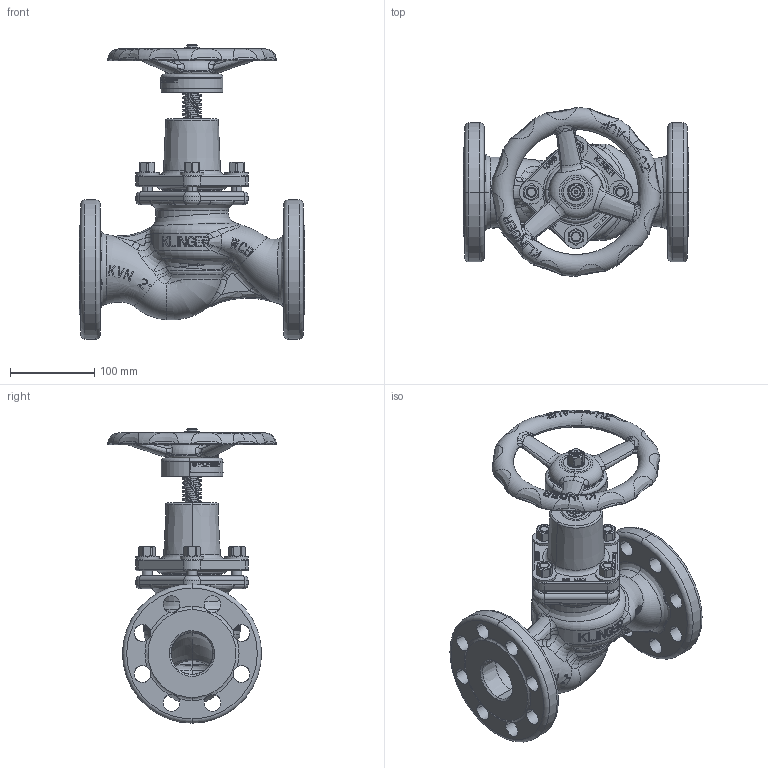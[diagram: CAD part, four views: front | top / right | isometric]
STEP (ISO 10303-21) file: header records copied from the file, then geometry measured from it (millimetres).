
FILE_DESCRIPTION((''),'2;1');
FILE_NAME('KVNFL-2-S-----C300PGG_SW0001','2026-09-28T13:11:05',('jeitlers'),('KLINGER'),'CREO PARAMETRIC BY PTC INC, 2025443','CREO PARAMETRIC BY PTC INC, 2025443','');
FILE_SCHEMA(('CONFIG_CONTROL_DESIGN'));
Length unit declared in the file: millimetre
Products named in the file (1): KVNFL-2-S-----C300PGG_SW0001
Bounding box: 267 x 199.99 x 348.9 mm (x, y, z)
Volume: 2366836.8 mm3; surface area: 436948.8 mm2
Topology: 3 solids, 15 shells, 3011 faces, 8017 edges, 5069 vertices
Faces by surface type: plane 1595, bspline 631, cylinder 408, torus 253, cone 120, sphere 4
Entity records: 214623 total; most frequent: CARTESIAN_POINT 146591, ORIENTED_EDGE 16026, DIRECTION 11472, EDGE_CURVE 8013, VERTEX_POINT 5069, AXIS2_PLACEMENT_3D 4054, VECTOR 3364, LINE 3364
